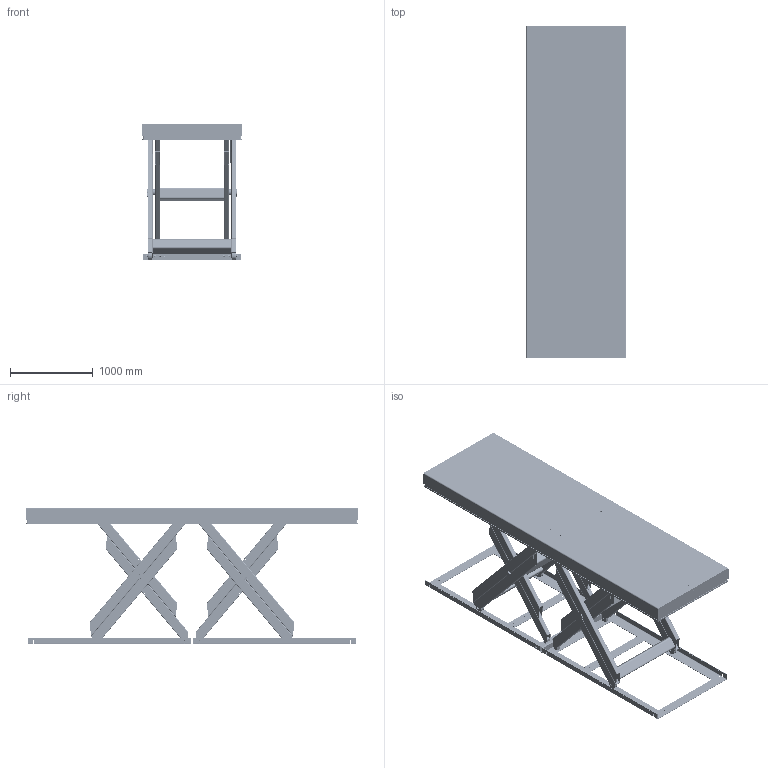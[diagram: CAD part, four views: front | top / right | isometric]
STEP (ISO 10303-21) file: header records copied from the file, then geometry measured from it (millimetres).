
FILE_DESCRIPTION(/* description */ (''),/* implementation_level */ '2;1');
FILE_NAME(/* name */ 'C:\Users\JOAED\Desktop\TAH 8000 - (33890)\33890_Raised.stp',/* time_stamp */ '2021-10-28T07:13:35+02:00',/* author */ ('JOAED'),/* organization */ (''),/* preprocessor_version */ 'ST-DEVELOPER v18.1',/* originating_system */ 'Autodesk Inventor 2021',/* authorisation */ '');
FILE_SCHEMA (('AUTOMOTIVE_DESIGN { 1 0 10303 214 3 1 1 }'));
Products named in the file (93): 33890; 33891; 33861; 612279; 601395; 44004; 44006; 43270; 614083; ISO 4019 - 80x40x4 - 1185; 80476; ISO 4017 - M10 x 65; 614112; 614114; 614078; 44005; 614115; 614116; 614075; 614077; 41333-1986; 41333-338; 41333-298; 601704; 614024; 614025; 614032; 614081; 614022; 80131; 85955; 45387; 42509-25; 84409; 84538; 614036; 82091 - 934; 614146; 614117; 42289-1156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
Assembly tree (360 placements, depth 5):
  33890
    33891
      33861  x2
        612279
        601395
        44004
        44005
        44006
        43270
      614083
        ISO 4019 - 80x40x4 - 1185
      ISO 4017 - M10 x 65  x4
      84409  x8
      80476  x4
    70025  x32
    42509  x16
    83245  x16
    84006  x6
    614112
      614114
      614075
      614077
      614078  x2
      41333-1986  x2
      41333-338  x2
      41333-298
      601704  x2
      44005  x2
      614024
      614025
      614032  x2
      45387  x9
      80131  x6
      85955  x3
    614115
      614116
      614075
      614077
      41333-1986  x2
      41333-338  x2
      41333-298
      601704  x2
      614024
      614025
      614032  x2
      614081  x2
      614022  x4
      45387  x9
      80131  x6
      85955  x3
    42509-25  x4
    614036  x4
      82091 - 934
      614146
    84409  x4
    84538  x4
    614117
      42289-1978  x4
      42289-1156  x2
      33990  x4
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Bounding box: 1200.2 x 4000.2 x 1650 mm (x, y, z)
Volume: 131538305.3 mm3; surface area: 50242333.5 mm2
Topology: 371 solids, 383 shells, 15967 faces, 42053 edges, 27366 vertices
Faces by surface type: plane 8520, cylinder 4627, bspline 1164, cone 1160, torus 488, sphere 8
Full cylindrical faces by diameter (mm): 0.217 x2, 0.474 x4, 1 x16, 1.2 x10, 3 x8, 3.141 x8, 3.2 x8, 4 x32, 4.3 x8, 4.445 x2, 4.9 x4, 5 x24, 5.156 x2, 5.2 x12, 5.3 x4, 5.4 x2, 5.969 x2, 6.647 x12, 6.917 x12, 7.4 x28, 7.6 x8, 8 x40, 8.376 x4, 8.5 x20, 9 x5, 9.3 x6, 10 x52, 10.106 x6, 10.4 x2, 10.5 x28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
Entity records: 194119 total; most frequent: CARTESIAN_POINT 52881, ORIENTED_EDGE 28376, DIRECTION 27908, EDGE_CURVE 14188, AXIS2_PLACEMENT_3D 9457, VERTEX_POINT 9235, LINE 8994, VECTOR 8994
